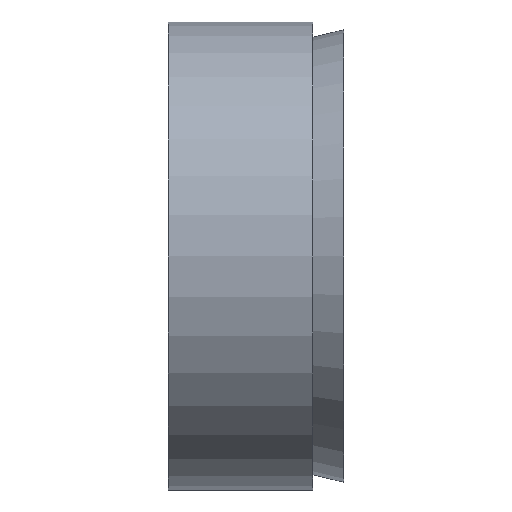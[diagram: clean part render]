
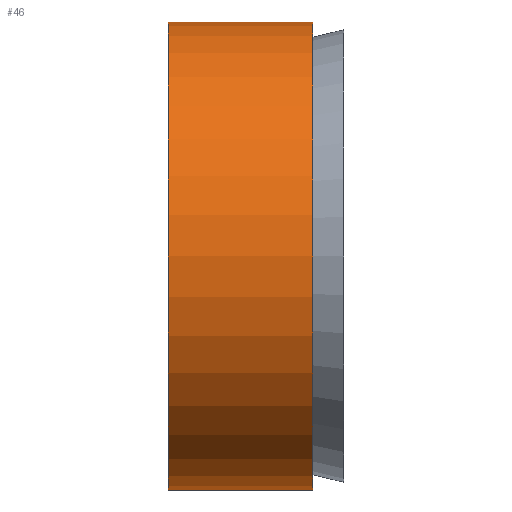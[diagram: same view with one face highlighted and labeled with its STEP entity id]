
A CAD part, left-side view. The second image highlights one B-rep face of the part: STEP entity #46.
In plain terms, the highlighted cylindrical face has radius 6 mm (diameter 12 mm), a full revolution.
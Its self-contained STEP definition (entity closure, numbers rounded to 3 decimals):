
#46 = ADVANCED_FACE( '', ( #93, #94 ), #95, .T. );
#93 = FACE_OUTER_BOUND( '', #132, .T. );
#94 = FACE_OUTER_BOUND( '', #133, .T. );
#95 = CYLINDRICAL_SURFACE( '', #134, 6. );
#132 = EDGE_LOOP( '', ( #179 ) );
#133 = EDGE_LOOP( '', ( #180 ) );
#134 = AXIS2_PLACEMENT_3D( '', #181, #182, #183 );
#179 = ORIENTED_EDGE( '', *, *, #189, .F. );
#180 = ORIENTED_EDGE( '', *, *, #198, .T. );
#181 = CARTESIAN_POINT( '', ( 0., -60., 0. ) );
#182 = DIRECTION( '', ( 0., 1., 0. ) );
#183 = DIRECTION( '', ( 0., 0., -1. ) );
#189 = EDGE_CURVE( '', #208, #208, #209, .T. );
#198 = EDGE_CURVE( '', #221, #221, #222, .T. );
#208 = VERTEX_POINT( '', #232 );
#209 = CIRCLE( '', #233, 6. );
#221 = VERTEX_POINT( '', #245 );
#222 = CIRCLE( '', #246, 6. );
#232 = CARTESIAN_POINT( '', ( 0., 0.8, -6. ) );
#233 = AXIS2_PLACEMENT_3D( '', #257, #258, #259 );
#245 = CARTESIAN_POINT( '', ( 0., 4.5, -6. ) );
#246 = AXIS2_PLACEMENT_3D( '', #269, #270, #271 );
#257 = CARTESIAN_POINT( '', ( 0., 0.8, 0. ) );
#258 = DIRECTION( '', ( 0., -1., 0. ) );
#259 = DIRECTION( '', ( 0., 0., -1. ) );
#269 = CARTESIAN_POINT( '', ( 0., 4.5, 0. ) );
#270 = DIRECTION( '', ( 0., -1., 0. ) );
#271 = DIRECTION( '', ( 0., 0., -1. ) );
